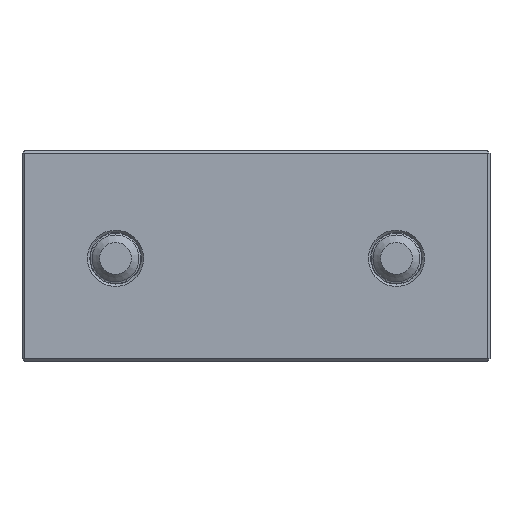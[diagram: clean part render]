
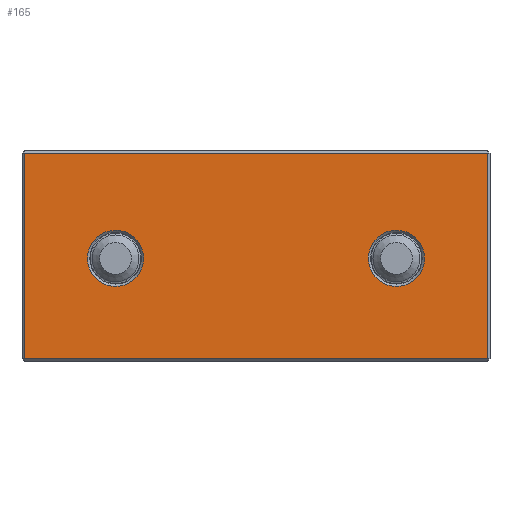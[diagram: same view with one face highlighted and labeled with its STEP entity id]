
A CAD part, front view. The second image highlights one B-rep face of the part: STEP entity #165.
In plain terms, the highlighted planar face has unit normal (0, -1, 0).
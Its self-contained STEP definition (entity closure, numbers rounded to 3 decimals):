
#165=ADVANCED_FACE('',(#1346,#1348,#1350),#1352,.T.);
#1346=FACE_BOUND('',#1347,.T.);
#1347=EDGE_LOOP('',(#2239,#2240,#2241,#2242));
#1348=FACE_BOUND('',#1349,.T.);
#1349=EDGE_LOOP('',(#2243));
#1350=FACE_BOUND('',#1351,.T.);
#1351=EDGE_LOOP('',(#2244));
#1352=PLANE('',#1353);
#1353=AXIS2_PLACEMENT_3D('',#1354,#1355,#1356);
#1354=CARTESIAN_POINT('',(-50.,-7.,23.));
#1355=DIRECTION('',(0.,-1.,0.));
#1356=DIRECTION('',(0.,0.,-1.));
#2239=ORIENTED_EDGE('',*,*,#2846,.F.);
#2240=ORIENTED_EDGE('',*,*,#2847,.F.);
#2241=ORIENTED_EDGE('',*,*,#2848,.T.);
#2242=ORIENTED_EDGE('',*,*,#2849,.T.);
#2243=ORIENTED_EDGE('',*,*,#2850,.T.);
#2244=ORIENTED_EDGE('',*,*,#2833,.T.);
#2833=EDGE_CURVE('',#3153,#3153,#3154,.T.);
#2846=EDGE_CURVE('',#3179,#3180,#3181,.T.);
#2847=EDGE_CURVE('',#3182,#3179,#3183,.T.);
#2848=EDGE_CURVE('',#3182,#3184,#3185,.T.);
#2849=EDGE_CURVE('',#3184,#3180,#3186,.T.);
#2850=EDGE_CURVE('',#3187,#3187,#3188,.T.);
#3153=VERTEX_POINT('',#3705);
#3154=CIRCLE('',#3706,6.);
#3179=VERTEX_POINT('',#3760);
#3180=VERTEX_POINT('',#3761);
#3181=LINE('',#3762,#3763);
#3182=VERTEX_POINT('',#3765);
#3183=LINE('',#3766,#3767);
#3184=VERTEX_POINT('',#3769);
#3185=LINE('',#3770,#3771);
#3186=LINE('',#3773,#3774);
#3187=VERTEX_POINT('',#3776);
#3188=CIRCLE('',#3777,6.);
#3705=CARTESIAN_POINT('',(36.,-7.,0.));
#3706=AXIS2_PLACEMENT_3D('',#3707,#3708,#3709);
#3707=CARTESIAN_POINT('',(30.,-7.,0.));
#3708=DIRECTION('',(0.,1.,0.));
#3709=DIRECTION('',(1.,0.,0.));
#3760=CARTESIAN_POINT('',(49.5,-7.,22.5));
#3761=CARTESIAN_POINT('',(49.5,-7.,-21.5));
#3762=CARTESIAN_POINT('',(49.5,-7.,22.5));
#3763=VECTOR('',#3764,1.);
#3764=DIRECTION('',(0.,0.,-1.));
#3765=CARTESIAN_POINT('',(-49.5,-7.,22.5));
#3766=CARTESIAN_POINT('',(-49.5,-7.,22.5));
#3767=VECTOR('',#3768,1.);
#3768=DIRECTION('',(1.,0.,0.));
#3769=CARTESIAN_POINT('',(-49.5,-7.,-21.5));
#3770=CARTESIAN_POINT('',(-49.5,-7.,22.5));
#3771=VECTOR('',#3772,1.);
#3772=DIRECTION('',(0.,0.,-1.));
#3773=CARTESIAN_POINT('',(-49.5,-7.,-21.5));
#3774=VECTOR('',#3775,1.);
#3775=DIRECTION('',(1.,0.,0.));
#3776=CARTESIAN_POINT('',(-24.,-7.,0.));
#3777=AXIS2_PLACEMENT_3D('',#3778,#3779,#3780);
#3778=CARTESIAN_POINT('',(-30.,-7.,0.));
#3779=DIRECTION('',(0.,1.,0.));
#3780=DIRECTION('',(1.,0.,0.));
